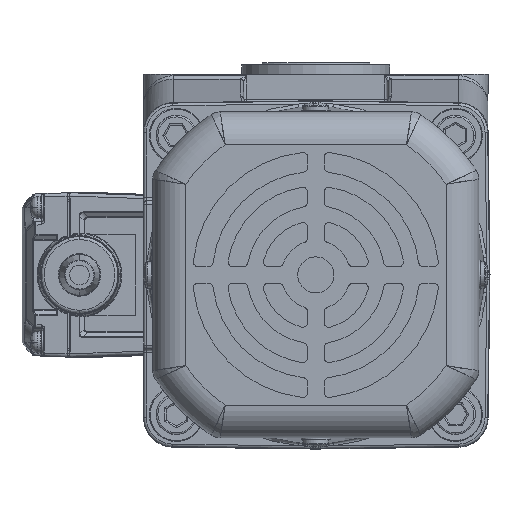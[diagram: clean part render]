
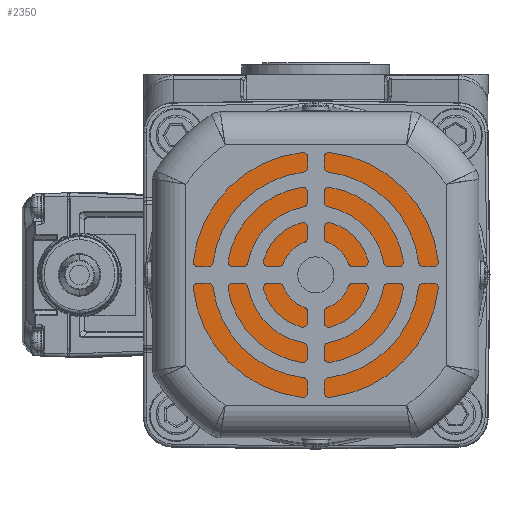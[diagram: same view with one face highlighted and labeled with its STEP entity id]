
A CAD part, left-side view. The second image highlights one B-rep face of the part: STEP entity #2350.
In plain terms, the highlighted planar face has unit normal (-1, 0, 0) as drawn and (0, 0, -1) by its records, which use the part's own axes.
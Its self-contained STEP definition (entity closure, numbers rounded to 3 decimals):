
#2272=CARTESIAN_POINT('',(0.,46.216,-140.));
#2273=VERTEX_POINT('',#2272);
#2281=CARTESIAN_POINT('',(0.,-46.216,-140.));
#2282=VERTEX_POINT('',#2281);
#2283=CARTESIAN_POINT('',(0.,0.,-140.));
#2284=DIRECTION('',(0.,1.,0.));
#2285=DIRECTION('',(0.,0.,1.));
#2286=AXIS2_PLACEMENT_3D('',#2283,#2285,#2284);
#2287=CIRCLE('',#2286,46.216);
#2288=EDGE_CURVE('',#2273,#2282,#2287,.T.);
#2307=CARTESIAN_POINT('',(0.,0.,-140.));
#2308=DIRECTION('',(0.,-1.,0.));
#2309=DIRECTION('',(0.,-0.,1.));
#2310=AXIS2_PLACEMENT_3D('',#2307,#2309,#2308);
#2311=CIRCLE('',#2310,46.216);
#2312=EDGE_CURVE('',#2282,#2273,#2311,.T.);
#2321=CARTESIAN_POINT('',(0.,0.,-140.));
#2322=DIRECTION('',(0.,-1.,0.));
#2323=DIRECTION('',(-0.,-0.,-1.));
#2324=AXIS2_PLACEMENT_3D('',#2321,#2323,#2322);
#2325=PLANE('',#2324);
#2326=ORIENTED_EDGE('',*,*,#2312,.F.);
#2327=ORIENTED_EDGE('',*,*,#2288,.F.);
#2328=EDGE_LOOP('',(#2326,#2327));
#2329=FACE_OUTER_BOUND('',#2328,.T.);
#2330=CARTESIAN_POINT('',(-7.5,0.,-140.));
#2331=VERTEX_POINT('',#2330);
#2332=CARTESIAN_POINT('',(7.5,0.,-140.));
#2333=VERTEX_POINT('',#2332);
#2334=CARTESIAN_POINT('',(0.,0.,-140.));
#2335=DIRECTION('',(-1.,0.,0.));
#2336=DIRECTION('',(-0.,0.,1.));
#2337=AXIS2_PLACEMENT_3D('',#2334,#2336,#2335);
#2338=CIRCLE('',#2337,7.5);
#2339=EDGE_CURVE('',#2331,#2333,#2338,.T.);
#2340=ORIENTED_EDGE('E178',*,*,#2339,.T.);
#2341=CARTESIAN_POINT('',(0.,0.,-140.));
#2342=DIRECTION('',(1.,0.,0.));
#2343=DIRECTION('',(0.,0.,1.));
#2344=AXIS2_PLACEMENT_3D('',#2341,#2343,#2342);
#2345=CIRCLE('',#2344,7.5);
#2346=EDGE_CURVE('',#2333,#2331,#2345,.T.);
#2347=ORIENTED_EDGE('E179',*,*,#2346,.T.);
#2348=EDGE_LOOP('',(#2340,#2347));
#2349=FACE_BOUND('',#2348,.T.);
#2350=ADVANCED_FACE('F55',(#2329,#2349),#2325,.T.);
